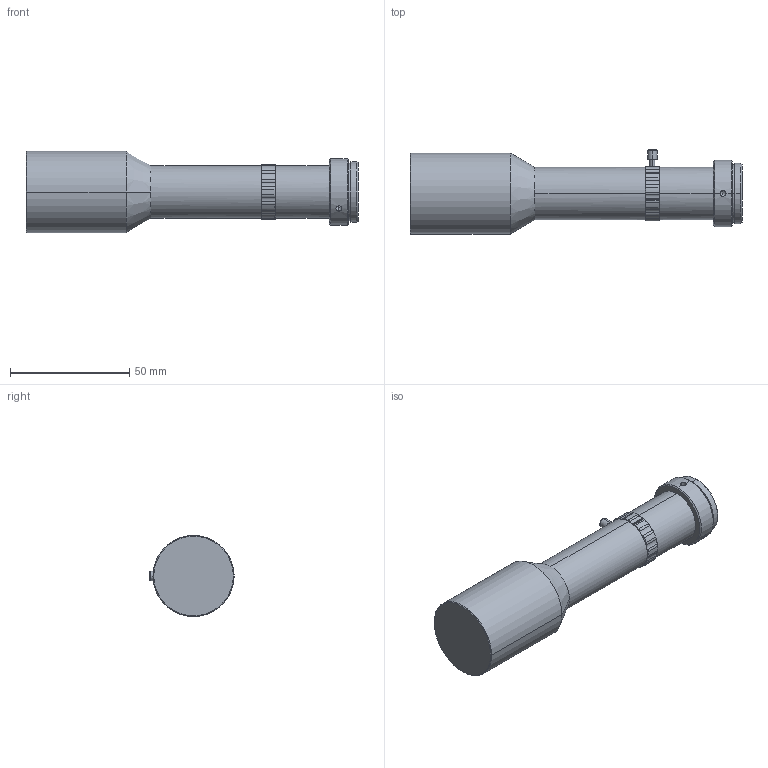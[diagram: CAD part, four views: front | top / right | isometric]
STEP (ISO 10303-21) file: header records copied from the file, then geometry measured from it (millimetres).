
FILE_DESCRIPTION (( 'STEP AP203' ), '1' );
FILE_NAME ('WWH05-110AT-GL.STEP', '2019-12-03T02:57:25', ( 'Windows 蚚誧' ), ( '' ), 'SwSTEP 2.0', 'SolidWorks 2017', '' );
FILE_SCHEMA (( 'CONFIG_CONTROL_DESIGN' ));
Length unit declared in the file: millimetre
Products named in the file (1): WWH05-110AT-GL
Bounding box: 139.2 x 35.29 x 34 mm (x, y, z)
Volume: 80081.9 mm3; surface area: 13729.4 mm2
Topology: 2 solids, 2 shells, 141 faces, 364 edges, 227 vertices
Faces by surface type: cylinder 69, cone 40, plane 30, bspline 2
Entity records: 4702 total; most frequent: CARTESIAN_POINT 1169, DIRECTION 784, ORIENTED_EDGE 716, EDGE_CURVE 358, AXIS2_PLACEMENT_3D 348, VERTEX_POINT 227, CIRCLE 208, EDGE_LOOP 147
